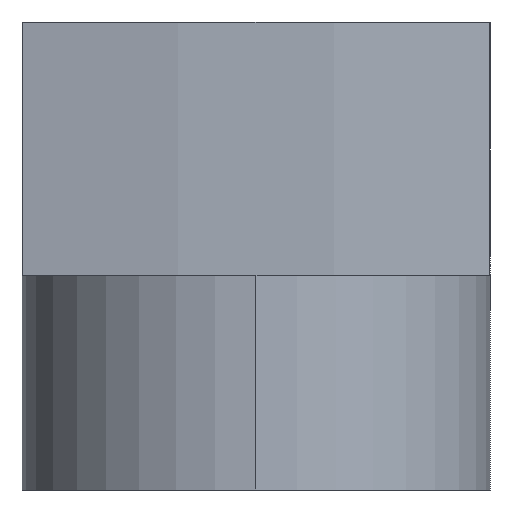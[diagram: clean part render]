
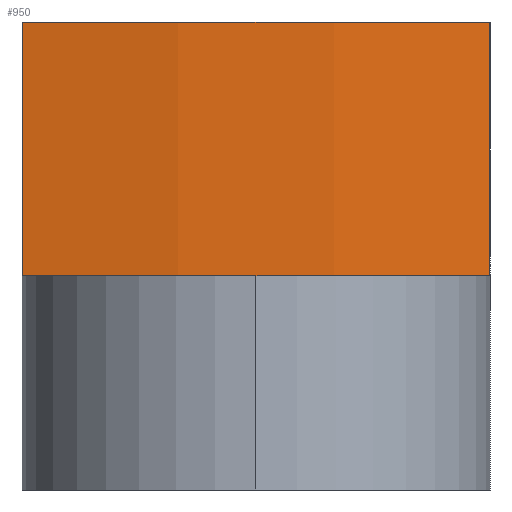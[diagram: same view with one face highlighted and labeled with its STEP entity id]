
A CAD part, left-side view. The second image highlights one B-rep face of the part: STEP entity #950.
In plain terms, the highlighted cylindrical face has radius 125 mm (diameter 250 mm), a partial arc.
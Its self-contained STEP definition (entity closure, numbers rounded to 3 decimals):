
#15 = ORIENTED_EDGE ( 'NONE', *, *, #1171, .F. ) ;
#16 = VERTEX_POINT ( 'NONE', #765 ) ;
#17 = DIRECTION ( 'NONE',  ( 0., 0., 1. ) ) ;
#76 = VECTOR ( 'NONE', #1167, 1000. ) ;
#114 = LINE ( 'NONE', #696, #76 ) ;
#120 = CARTESIAN_POINT ( 'NONE',  ( -47.674, -24., -26. ) ) ;
#184 = DIRECTION ( 'NONE',  ( 0., 0., 1. ) ) ;
#205 = CARTESIAN_POINT ( 'NONE',  ( -47.674, 24., -26. ) ) ;
#243 = EDGE_CURVE ( 'NONE', #16, #637, #114, .T. ) ;
#249 = EDGE_LOOP ( 'NONE', ( #15, #743, #1448, #429 ) ) ;
#252 = AXIS2_PLACEMENT_3D ( 'NONE', #901, #17, #855 ) ;
#274 = DIRECTION ( 'NONE',  ( 0., 0., 1. ) ) ;
#282 = CARTESIAN_POINT ( 'NONE',  ( 75., 0., -48. ) ) ;
#299 = DIRECTION ( 'NONE',  ( 1., 0., 0. ) ) ;
#409 = AXIS2_PLACEMENT_3D ( 'NONE', #282, #274, #299 ) ;
#429 = ORIENTED_EDGE ( 'NONE', *, *, #988, .T. ) ;
#448 = FACE_OUTER_BOUND ( 'NONE', #249, .T. ) ;
#628 = VERTEX_POINT ( 'NONE', #205 ) ;
#637 = VERTEX_POINT ( 'NONE', #120 ) ;
#662 = CARTESIAN_POINT ( 'NONE',  ( -47.674, 24., -48. ) ) ;
#693 = CARTESIAN_POINT ( 'NONE',  ( -47.674, 24., 0. ) ) ;
#696 = CARTESIAN_POINT ( 'NONE',  ( -47.674, -24., -48. ) ) ;
#743 = ORIENTED_EDGE ( 'NONE', *, *, #1088, .T. ) ;
#765 = CARTESIAN_POINT ( 'NONE',  ( -47.674, -24., 0. ) ) ;
#855 = DIRECTION ( 'NONE',  ( -1., 0., 0. ) ) ;
#901 = CARTESIAN_POINT ( 'NONE',  ( 75., 0., -26. ) ) ;
#903 = AXIS2_PLACEMENT_3D ( 'NONE', #1053, #1481, #1475 ) ;
#950 = ADVANCED_FACE ( 'NONE', ( #448 ), #1499, .T. ) ;
#988 = EDGE_CURVE ( 'NONE', #16, #1492, #1431, .T. ) ;
#1053 = CARTESIAN_POINT ( 'NONE',  ( 75., 0., 0. ) ) ;
#1088 = EDGE_CURVE ( 'NONE', #628, #637, #1316, .T. ) ;
#1167 = DIRECTION ( 'NONE',  ( 0., 0., -1. ) ) ;
#1171 = EDGE_CURVE ( 'NONE', #628, #1492, #1299, .T. ) ;
#1261 = VECTOR ( 'NONE', #184, 1000. ) ;
#1299 = LINE ( 'NONE', #662, #1261 ) ;
#1316 = CIRCLE ( 'NONE', #252, 125. ) ;
#1431 = CIRCLE ( 'NONE', #903, 125. ) ;
#1448 = ORIENTED_EDGE ( 'NONE', *, *, #243, .F. ) ;
#1475 = DIRECTION ( 'NONE',  ( -1., 0., 0. ) ) ;
#1481 = DIRECTION ( 'NONE',  ( 0., 0., -1. ) ) ;
#1492 = VERTEX_POINT ( 'NONE', #693 ) ;
#1499 = CYLINDRICAL_SURFACE ( 'NONE', #409, 125. ) ;
